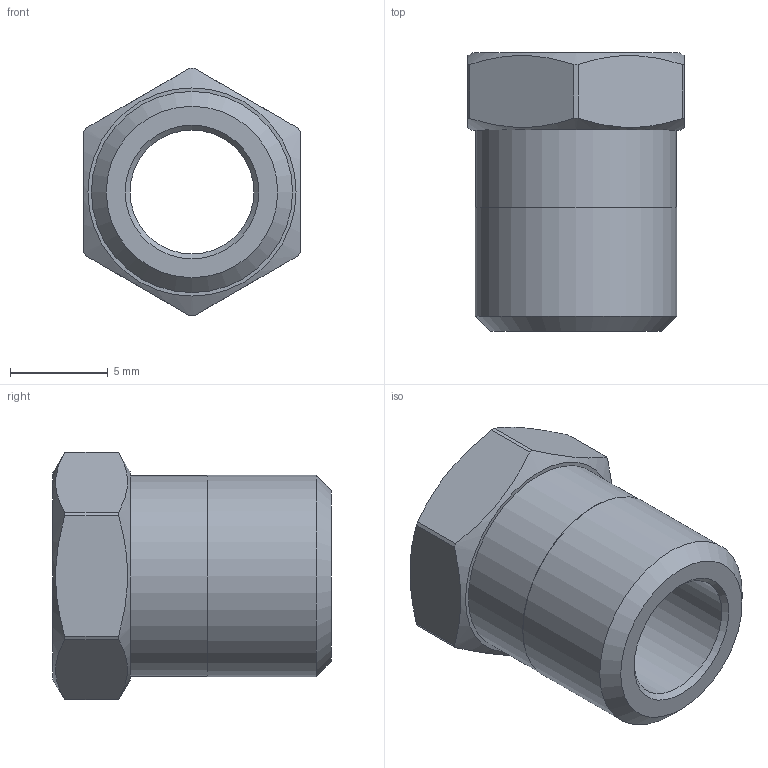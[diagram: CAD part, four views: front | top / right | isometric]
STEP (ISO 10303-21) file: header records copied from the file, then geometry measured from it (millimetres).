
FILE_DESCRIPTION(/* description */ (''),/* implementation_level */ '2;1');
FILE_NAME(/* name */ 'C:/Users/drich/Desktop/RB18-1 v1.step',/* time_stamp */ '2020-02-09T11:00:00-06:00',/* author */ (''),/* organization */ (''),/* preprocessor_version */ 'ST-DEVELOPER v18',/* originating_system */ 'Autodesk Translation Framework v8.12.0.6',/* authorisation */ '');
FILE_SCHEMA (('AUTOMOTIVE_DESIGN { 1 0 10303 214 3 1 1 }'));
Length unit declared in the file: inch
Products named in the file (1): RB18-1
Bounding box: 11.1 x 14.27 x 12.7 mm (x, y, z)
Volume: 806.3 mm3; surface area: 881 mm2
Topology: 1 solids, 1 shells, 26 faces, 68 edges, 47 vertices
Faces by surface type: plane 11, cylinder 10, cone 5
Full cylindrical faces by diameter (mm): 6.35 x1, 6.401 x1, 10.262 x1, 10.312 x1
Entity records: 861 total; most frequent: CARTESIAN_POINT 166, DIRECTION 145, ORIENTED_EDGE 136, EDGE_CURVE 68, AXIS2_PLACEMENT_3D 62, VERTEX_POINT 47, CIRCLE 35, EDGE_LOOP 31
